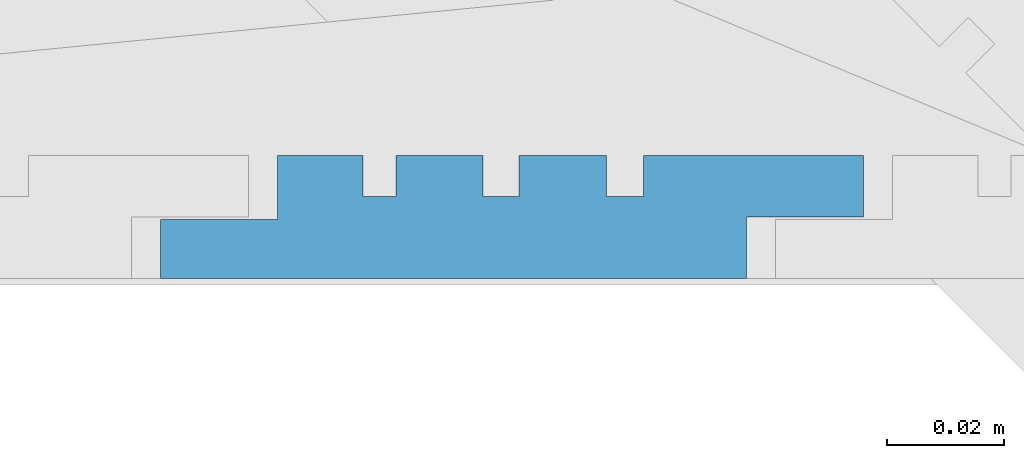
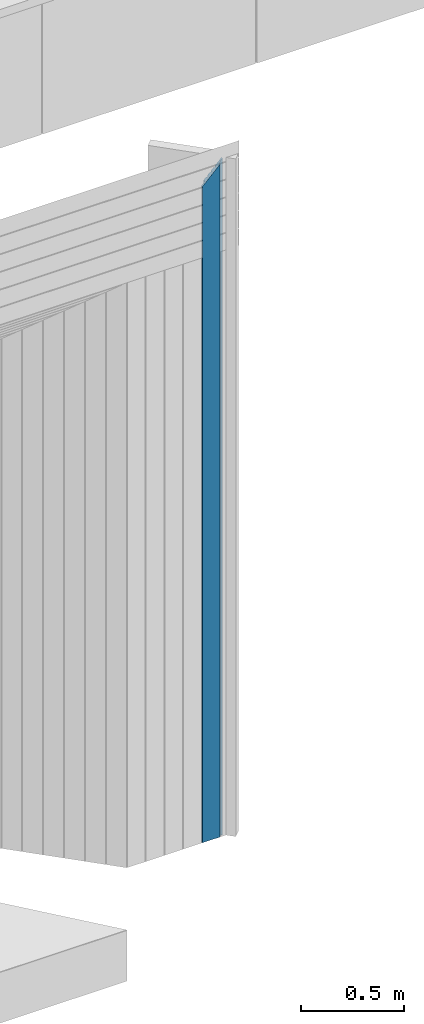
# One storey, part 107 of 418: 1 building element part, 1 element without a shape of its own.
"""IFC2X3 building model written with IfcOpenShell, lengths in millimetres."""

from ifc_helpers import new_model, entity, si_unit, converted_unit, derived_unit, money_unit, direction, frame, origin_with_axes, place, context, subcontext, project, spatial, polyline, outline, extrude, boolean, faceted_brep, material, type_object, element, aggregate, save


model = new_model("IFC2X3")

# Units and contexts
model_context = context("Model", 3, precision=0.01, world=origin_with_axes(), true_north=direction((0.0, 1.0)))
body_context = subcontext(model_context, "Body", "Model", "MODEL_VIEW")
ifc_project = project(units=[si_unit("LENGTHUNIT", "METRE", prefix="MILLI"), si_unit("AREAUNIT", "SQUARE_METRE"), si_unit("VOLUMEUNIT", "CUBIC_METRE"), converted_unit("PLANEANGLEUNIT", "DEGREE", entity("IfcPlaneAngleMeasure", 0.0174532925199), si_unit("PLANEANGLEUNIT", "RADIAN"), dimensions=[0, 0, 0, 0, 0, 0, 0]), si_unit("SOLIDANGLEUNIT", "STERADIAN"), money_unit("EUR"), converted_unit("TIMEUNIT", "Year", entity("IfcTimeMeasure", 31556926.0), si_unit("TIMEUNIT", "SECOND"), dimensions=[0, 0, 1, 0, 0, 0, 0]), si_unit("MASSUNIT", "GRAM", prefix="KILO"), si_unit("THERMODYNAMICTEMPERATUREUNIT", "DEGREE_CELSIUS"), si_unit("LUMINOUSINTENSITYUNIT", "LUMEN"), si_unit("ENERGYUNIT", "JOULE", prefix="MEGA"), derived_unit("THERMALCONDUCTANCEUNIT", [(si_unit("POWERUNIT", "WATT"), 1), (si_unit("LENGTHUNIT", "METRE"), -1), (si_unit("THERMODYNAMICTEMPERATUREUNIT", "KELVIN"), -1)]), derived_unit("SPECIFICHEATCAPACITYUNIT", [(si_unit("ENERGYUNIT", "JOULE"), 1), (si_unit("MASSUNIT", "GRAM", prefix="KILO"), -1), (si_unit("THERMODYNAMICTEMPERATUREUNIT", "KELVIN"), -1)]), derived_unit("MASSDENSITYUNIT", [(si_unit("MASSUNIT", "GRAM", prefix="KILO"), 1), (si_unit("VOLUMEUNIT", "CUBIC_METRE"), -1)])], contexts=[model_context])

# Site, building, storey
site_placement = place(None, origin_with_axes())
site = spatial("IfcSite", under=ifc_project, at=site_placement, Name="Paldiski mnt 245/1, Tallinn, Harjumaa", CompositionType="COMPLEX")
building_placement = place(site_placement, origin_with_axes())
building = spatial("IfcBuilding", under=site, at=building_placement, Name="RKAS Hoone üldnimetus (kasutust iseloomustav) -> IFC Project Manager -> SOLIBRI", CompositionType="ELEMENT")
storey_placement = place(building_placement, origin_with_axes())
storey = spatial("IfcBuildingStorey", under=building, at=storey_placement, Name="Esimene korrus", CompositionType="ELEMENT", Elevation=0.0)

# Proxy, building element part
building_element_proxy_type = type_object("IfcBuildingElementProxyType", Name="Laudis esiprofiil_01 21 x 622", PredefinedType="NOTDEFINED")
proxy_placement = place(storey_placement, frame((-37270.373884, -18705.5141429, 0.0), z_axis=(0.0, 0.0, 1.0), x_axis=(0.0, -1.0, 0.0)))
proxy = element("IfcBuildingElementProxy", 1, at=proxy_placement, inside=storey, type_object=building_element_proxy_type, Name="Varikatus")
ifc_material = material(Name="Laudis 5072 Honka 45 horisontaalne raastas")
building_element_part_placement = place(proxy_placement, origin_with_axes())
building_element_part = element("IfcBuildingElementPart", 2, at=building_element_part_placement, material=ifc_material, Name="Laudis 5072 Honka 45 horisontaalne raastas", context=body_context, shape_type="CSG", body=[
    boolean("DIFFERENCE", boolean("DIFFERENCE", boolean("DIFFERENCE", boolean("DIFFERENCE", boolean("DIFFERENCE", boolean("DIFFERENCE", extrude(outline(polyline([(3.20348192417e-08, -100.971430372), (-10.5000010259, -100.971430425), (-10.5000005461, -80.9714298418), (-20.9999998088, -80.9714301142), (-21.0000010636, -118.497524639), (-14.0000005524, -118.497525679), (-14.0000003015, -124.860022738), (-20.99999981, -124.860022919), (-20.9999998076, -139.79914009), (-14.0000002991, -139.799139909), (-14.0000007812, -145.926080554), (-21.0000002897, -145.926080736), (-21.0000013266, -160.754573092), (-14.0000008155, -160.754574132), (-14.0000015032, -166.395242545), (-21.0000010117, -166.395242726), (-21.0000007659, -180.971429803), (-10.000001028, -180.971430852), (-10.0000002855, -200.971430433), (-7.63172636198e-07, -200.971430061), (3.20348192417e-08, -100.971430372)])), origin_with_axes(), (0.0, 0.0, 1.0), 4086.15997799), faceted_brep([(-10.5000005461, -395.971429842, 3689.02857134), (-20.9999998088, -395.971430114, 3689.02857107), (-20.9999998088, -395.971430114, 4086.15997799), (-10.5000005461, -395.971429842, 4086.15997799), (-21.0000010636, -433.497524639, 3651.50247655), (-10.5000010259, -415.971430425, 3669.02857076), (3.20348192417e-08, -415.971430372, 3669.02857081), (-7.63172636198e-07, -515.971430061, 3569.02857112), (-10.0000002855, -515.971430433, 3569.02857075), (-10.000001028, -495.971430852, 3589.02857033), (-21.0000007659, -495.971429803, 3589.02857138), (-21.0000010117, -481.395242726, 3603.60475846), (-14.0000015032, -481.395242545, 3603.60475864), (-14.0000008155, -475.754574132, 3609.24542705), (-21.0000013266, -475.754573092, 3609.24542809), (-21.0000002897, -460.926080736, 3624.07392045), (-14.0000007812, -460.926080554, 3624.07392063), (-14.0000002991, -454.799139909, 3630.20086128), (-20.9999998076, -454.79914009, 3630.20086109), (-20.99999981, -439.860022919, 3645.13997827), (-14.0000003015, -439.860022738, 3645.13997845), (-14.0000005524, -433.497525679, 3651.50247551), (-21.0000010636, -433.497524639, 4086.15997799), (-7.63172636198e-07, -515.971430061, 4086.15997799), (3.20348192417e-08, -415.971430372, 4086.15997799), (-10.5000010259, -415.971430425, 4086.15997799), (-14.0000005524, -433.497525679, 4086.15997799), (-14.0000003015, -439.860022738, 4086.15997799), (-20.99999981, -439.860022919, 4086.15997799), (-20.9999998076, -454.79914009, 4086.15997799), (-14.0000002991, -454.799139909, 4086.15997799), (-14.0000007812, -460.926080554, 4086.15997799), (-21.0000002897, -460.926080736, 4086.15997799), (-21.0000013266, -475.754573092, 4086.15997799), (-14.0000008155, -475.754574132, 4086.15997799), (-14.0000015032, -481.395242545, 4086.15997799), (-21.0000010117, -481.395242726, 4086.15997799), (-21.0000007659, -495.971429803, 4086.15997799), (-10.000001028, -495.971430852, 4086.15997799), (-10.0000002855, -515.971430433, 4086.15997799)], [[[0, 1, 2, 3]], [[4, 1, 0, 5, 6, 7, 8, 9, 10, 11, 12, 13, 14, 15, 16, 17, 18, 19, 20, 21]], [[1, 4, 22, 2]], [[23, 24, 25, 3, 2, 22, 26, 27, 28, 29, 30, 31, 32, 33, 34, 35, 36, 37, 38, 39]], [[5, 0, 3, 25]], [[6, 5, 25, 24]], [[7, 6, 24, 23]], [[8, 7, 23, 39]], [[9, 8, 39, 38]], [[10, 9, 38, 37]], [[11, 10, 37, 36]], [[12, 11, 36, 35]], [[13, 12, 35, 34]], [[14, 13, 34, 33]], [[15, 14, 33, 32]], [[16, 15, 32, 31]], [[17, 16, 31, 30]], [[18, 17, 30, 29]], [[19, 18, 29, 28]], [[20, 19, 28, 27]], [[21, 20, 27, 26]], [[4, 21, 26, 22]]])), faceted_brep([(-10.5000005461, -500.971429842, 3584.02857134), (-20.9999998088, -500.971430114, 3584.02857107), (-20.9999998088, -500.971430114, 4086.15997799), (-10.5000005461, -500.971429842, 4086.15997799), (-21.0000010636, -538.497524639, 3546.50247655), (-10.5000010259, -520.971430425, 3564.02857076), (3.20348192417e-08, -520.971430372, 3564.02857081), (-7.63172636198e-07, -620.971430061, 3464.02857112), (-10.0000002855, -620.971430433, 3464.02857075), (-10.000001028, -600.971430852, 3484.02857033), (-21.0000007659, -600.971429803, 3484.02857138), (-21.0000010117, -586.395242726, 3498.60475846), (-14.0000015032, -586.395242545, 3498.60475864), (-14.0000008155, -580.754574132, 3504.24542705), (-21.0000013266, -580.754573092, 3504.24542809), (-21.0000002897, -565.926080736, 3519.07392045), (-14.0000007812, -565.926080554, 3519.07392063), (-14.0000002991, -559.799139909, 3525.20086128), (-20.9999998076, -559.79914009, 3525.20086109), (-20.99999981, -544.860022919, 3540.13997827), (-14.0000003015, -544.860022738, 3540.13997845), (-14.0000005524, -538.497525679, 3546.50247551), (-21.0000010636, -538.497524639, 4086.15997799), (-7.63172636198e-07, -620.971430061, 4086.15997799), (3.20348192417e-08, -520.971430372, 4086.15997799), (-10.5000010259, -520.971430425, 4086.15997799), (-14.0000005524, -538.497525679, 4086.15997799), (-14.0000003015, -544.860022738, 4086.15997799), (-20.99999981, -544.860022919, 4086.15997799), (-20.9999998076, -559.79914009, 4086.15997799), (-14.0000002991, -559.799139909, 4086.15997799), (-14.0000007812, -565.926080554, 4086.15997799), (-21.0000002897, -565.926080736, 4086.15997799), (-21.0000013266, -580.754573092, 4086.15997799), (-14.0000008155, -580.754574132, 4086.15997799), (-14.0000015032, -586.395242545, 4086.15997799), (-21.0000010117, -586.395242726, 4086.15997799), (-21.0000007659, -600.971429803, 4086.15997799), (-10.000001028, -600.971430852, 4086.15997799), (-10.0000002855, -620.971430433, 4086.15997799)], [[[0, 1, 2, 3]], [[4, 1, 0, 5, 6, 7, 8, 9, 10, 11, 12, 13, 14, 15, 16, 17, 18, 19, 20, 21]], [[1, 4, 22, 2]], [[23, 24, 25, 3, 2, 22, 26, 27, 28, 29, 30, 31, 32, 33, 34, 35, 36, 37, 38, 39]], [[5, 0, 3, 25]], [[6, 5, 25, 24]], [[7, 6, 24, 23]], [[8, 7, 23, 39]], [[9, 8, 39, 38]], [[10, 9, 38, 37]], [[11, 10, 37, 36]], [[12, 11, 36, 35]], [[13, 12, 35, 34]], [[14, 13, 34, 33]], [[15, 14, 33, 32]], [[16, 15, 32, 31]], [[17, 16, 31, 30]], [[18, 17, 30, 29]], [[19, 18, 29, 28]], [[20, 19, 28, 27]], [[21, 20, 27, 26]], [[4, 21, 26, 22]]])), faceted_brep([(-10.5000005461, -185.971429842, 3899.02857134), (-20.9999998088, -185.971430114, 3899.02857107), (-20.9999998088, -185.971430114, 4086.15997799), (-10.5000005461, -185.971429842, 4086.15997799), (-21.0000010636, -223.497524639, 3861.50247655), (-10.5000010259, -205.971430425, 3879.02857076), (3.20348192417e-08, -205.971430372, 3879.02857081), (-7.63172636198e-07, -305.971430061, 3779.02857112), (-10.0000002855, -305.971430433, 3779.02857075), (-10.000001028, -285.971430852, 3799.02857033), (-21.0000007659, -285.971429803, 3799.02857138), (-21.0000010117, -271.395242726, 3813.60475846), (-14.0000015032, -271.395242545, 3813.60475864), (-14.0000008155, -265.754574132, 3819.24542705), (-21.0000013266, -265.754573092, 3819.24542809), (-21.0000002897, -250.926080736, 3834.07392045), (-14.0000007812, -250.926080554, 3834.07392063), (-14.0000002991, -244.799139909, 3840.20086128), (-20.9999998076, -244.79914009, 3840.20086109), (-20.99999981, -229.860022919, 3855.13997827), (-14.0000003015, -229.860022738, 3855.13997845), (-14.0000005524, -223.497525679, 3861.50247551), (-21.0000010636, -223.497524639, 4086.15997799), (-7.63172636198e-07, -305.971430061, 4086.15997799), (3.20348192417e-08, -205.971430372, 4086.15997799), (-10.5000010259, -205.971430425, 4086.15997799), (-14.0000005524, -223.497525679, 4086.15997799), (-14.0000003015, -229.860022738, 4086.15997799), (-20.99999981, -229.860022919, 4086.15997799), (-20.9999998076, -244.79914009, 4086.15997799), (-14.0000002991, -244.799139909, 4086.15997799), (-14.0000007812, -250.926080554, 4086.15997799), (-21.0000002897, -250.926080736, 4086.15997799), (-21.0000013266, -265.754573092, 4086.15997799), (-14.0000008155, -265.754574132, 4086.15997799), (-14.0000015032, -271.395242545, 4086.15997799), (-21.0000010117, -271.395242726, 4086.15997799), (-21.0000007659, -285.971429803, 4086.15997799), (-10.000001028, -285.971430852, 4086.15997799), (-10.0000002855, -305.971430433, 4086.15997799)], [[[0, 1, 2, 3]], [[4, 1, 0, 5, 6, 7, 8, 9, 10, 11, 12, 13, 14, 15, 16, 17, 18, 19, 20, 21]], [[1, 4, 22, 2]], [[23, 24, 25, 3, 2, 22, 26, 27, 28, 29, 30, 31, 32, 33, 34, 35, 36, 37, 38, 39]], [[5, 0, 3, 25]], [[6, 5, 25, 24]], [[7, 6, 24, 23]], [[8, 7, 23, 39]], [[9, 8, 39, 38]], [[10, 9, 38, 37]], [[11, 10, 37, 36]], [[12, 11, 36, 35]], [[13, 12, 35, 34]], [[14, 13, 34, 33]], [[15, 14, 33, 32]], [[16, 15, 32, 31]], [[17, 16, 31, 30]], [[18, 17, 30, 29]], [[19, 18, 29, 28]], [[20, 19, 28, 27]], [[21, 20, 27, 26]], [[4, 21, 26, 22]]])), faceted_brep([(-10.5000005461, -290.971429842, 3794.02857134), (-20.9999998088, -290.971430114, 3794.02857107), (-20.9999998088, -290.971430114, 4086.15997799), (-10.5000005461, -290.971429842, 4086.15997799), (-21.0000010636, -328.497524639, 3756.50247655), (-10.5000010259, -310.971430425, 3774.02857076), (3.20348192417e-08, -310.971430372, 3774.02857081), (-7.63172636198e-07, -410.971430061, 3674.02857112), (-10.0000002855, -410.971430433, 3674.02857075), (-10.000001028, -390.971430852, 3694.02857033), (-21.0000007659, -390.971429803, 3694.02857138), (-21.0000010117, -376.395242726, 3708.60475846), (-14.0000015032, -376.395242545, 3708.60475864), (-14.0000008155, -370.754574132, 3714.24542705), (-21.0000013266, -370.754573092, 3714.24542809), (-21.0000002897, -355.926080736, 3729.07392045), (-14.0000007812, -355.926080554, 3729.07392063), (-14.0000002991, -349.799139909, 3735.20086128), (-20.9999998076, -349.79914009, 3735.20086109), (-20.99999981, -334.860022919, 3750.13997827), (-14.0000003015, -334.860022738, 3750.13997845), (-14.0000005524, -328.497525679, 3756.50247551), (-21.0000010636, -328.497524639, 4086.15997799), (-7.63172636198e-07, -410.971430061, 4086.15997799), (3.20348192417e-08, -310.971430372, 4086.15997799), (-10.5000010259, -310.971430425, 4086.15997799), (-14.0000005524, -328.497525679, 4086.15997799), (-14.0000003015, -334.860022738, 4086.15997799), (-20.99999981, -334.860022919, 4086.15997799), (-20.9999998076, -349.79914009, 4086.15997799), (-14.0000002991, -349.799139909, 4086.15997799), (-14.0000007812, -355.926080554, 4086.15997799), (-21.0000002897, -355.926080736, 4086.15997799), (-21.0000013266, -370.754573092, 4086.15997799), (-14.0000008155, -370.754574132, 4086.15997799), (-14.0000015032, -376.395242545, 4086.15997799), (-21.0000010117, -376.395242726, 4086.15997799), (-21.0000007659, -390.971429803, 4086.15997799), (-10.000001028, -390.971430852, 4086.15997799), (-10.0000002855, -410.971430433, 4086.15997799)], [[[0, 1, 2, 3]], [[4, 1, 0, 5, 6, 7, 8, 9, 10, 11, 12, 13, 14, 15, 16, 17, 18, 19, 20, 21]], [[1, 4, 22, 2]], [[23, 24, 25, 3, 2, 22, 26, 27, 28, 29, 30, 31, 32, 33, 34, 35, 36, 37, 38, 39]], [[5, 0, 3, 25]], [[6, 5, 25, 24]], [[7, 6, 24, 23]], [[8, 7, 23, 39]], [[9, 8, 39, 38]], [[10, 9, 38, 37]], [[11, 10, 37, 36]], [[12, 11, 36, 35]], [[13, 12, 35, 34]], [[14, 13, 34, 33]], [[15, 14, 33, 32]], [[16, 15, 32, 31]], [[17, 16, 31, 30]], [[18, 17, 30, 29]], [[19, 18, 29, 28]], [[20, 19, 28, 27]], [[21, 20, 27, 26]], [[4, 21, 26, 22]]])), faceted_brep([(-1.4387921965e-06, -95.9714304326, 3989.02857075), (8.28137558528e-09, 1.13997680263, 4086.13997799), (8.28137558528e-09, 1.13997680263, 4086.15997799), (-1.4387921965e-06, -95.9714304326, 4086.15997799), (-14.0000008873, -12.860024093, 4072.13997709), (-10.0000000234, -95.9714304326, 3989.02857075), (-10.0000014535, -75.9714304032, 4009.02857078), (-21.0000013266, -75.9714304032, 4009.02857078), (-21.0000013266, -61.3952431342, 4023.60475805), (-14.0000008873, -61.3952431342, 4023.60475805), (-14.0000008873, -55.7545748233, 4029.24542636), (-21.0000013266, -55.7545733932, 4029.24542779), (-20.9999998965, -40.9260801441, 4044.07392104), (-14.0000008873, -40.9260801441, 4044.07392104), (-14.0000008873, -34.7991393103, 4050.20086187), (-20.9999998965, -34.7991407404, 4050.20086044), (-20.9999998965, -19.8600231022, 4065.13997808), (-14.0000008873, -19.8600231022, 4065.13997808), (-14.0000008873, -12.860024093, 4086.15997799), (-20.9999998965, -40.9260801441, 4086.15997799), (-21.0000013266, -55.7545733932, 4086.15997799), (-14.0000008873, -55.7545748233, 4086.15997799), (-14.0000008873, -61.3952431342, 4086.15997799), (-21.0000013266, -61.3952431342, 4086.15997799), (-21.0000013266, -75.9714304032, 4086.15997799), (-10.0000014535, -75.9714304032, 4086.15997799), (-10.0000000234, -95.9714304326, 4086.15997799), (-14.0000008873, -19.8600231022, 4086.15997799), (-20.9999998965, -19.8600231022, 4086.15997799), (-20.9999998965, -34.7991407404, 4086.15997799), (-14.0000008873, -34.7991393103, 4086.15997799), (-14.0000008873, -40.9260801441, 4086.15997799)], [[[0, 1, 2, 3]], [[4, 1, 0, 5, 6, 7, 8, 9, 10, 11, 12, 13, 14, 15, 16, 17]], [[1, 4, 18, 2]], [[19, 20, 21, 22, 23, 24, 25, 26, 3, 2, 18, 27, 28, 29, 30, 31]], [[5, 0, 3, 26]], [[6, 5, 26, 25]], [[7, 6, 25, 24]], [[8, 7, 24, 23]], [[9, 8, 23, 22]], [[10, 9, 22, 21]], [[11, 10, 21, 20]], [[12, 11, 20, 19]], [[13, 12, 19, 31]], [[14, 13, 31, 30]], [[15, 14, 30, 29]], [[16, 15, 29, 28]], [[17, 16, 28, 27]], [[4, 17, 27, 18]]])), faceted_brep([(-10.5000005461, -80.9714298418, 4004.02857134), (-20.9999998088, -80.9714301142, 4004.02857107), (-20.9999998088, -80.9714301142, 4086.15997799), (-10.5000005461, -80.9714298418, 4086.15997799), (-21.0000010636, -118.497524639, 3966.50247655), (-10.5000010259, -100.971430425, 3984.02857076), (3.20348192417e-08, -100.971430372, 3984.02857081), (-7.63172636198e-07, -200.971430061, 3884.02857112), (-10.0000002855, -200.971430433, 3884.02857075), (-10.000001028, -180.971430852, 3904.02857033), (-21.0000007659, -180.971429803, 3904.02857138), (-21.0000010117, -166.395242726, 3918.60475846), (-14.0000015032, -166.395242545, 3918.60475864), (-14.0000008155, -160.754574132, 3924.24542705), (-21.0000013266, -160.754573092, 3924.24542809), (-21.0000002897, -145.926080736, 3939.07392045), (-14.0000007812, -145.926080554, 3939.07392063), (-14.0000002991, -139.799139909, 3945.20086128), (-20.9999998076, -139.79914009, 3945.20086109), (-20.99999981, -124.860022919, 3960.13997827), (-14.0000003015, -124.860022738, 3960.13997845), (-14.0000005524, -118.497525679, 3966.50247551), (-21.0000010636, -118.497524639, 4086.15997799), (-7.63172636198e-07, -200.971430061, 4086.15997799), (3.20348192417e-08, -100.971430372, 4086.15997799), (-10.5000010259, -100.971430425, 4086.15997799), (-14.0000005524, -118.497525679, 4086.15997799), (-14.0000003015, -124.860022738, 4086.15997799), (-20.99999981, -124.860022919, 4086.15997799), (-20.9999998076, -139.79914009, 4086.15997799), (-14.0000002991, -139.799139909, 4086.15997799), (-14.0000007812, -145.926080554, 4086.15997799), (-21.0000002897, -145.926080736, 4086.15997799), (-21.0000013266, -160.754573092, 4086.15997799), (-14.0000008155, -160.754574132, 4086.15997799), (-14.0000015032, -166.395242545, 4086.15997799), (-21.0000010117, -166.395242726, 4086.15997799), (-21.0000007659, -180.971429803, 4086.15997799), (-10.000001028, -180.971430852, 4086.15997799), (-10.0000002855, -200.971430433, 4086.15997799)], [[[0, 1, 2, 3]], [[4, 1, 0, 5, 6, 7, 8, 9, 10, 11, 12, 13, 14, 15, 16, 17, 18, 19, 20, 21]], [[1, 4, 22, 2]], [[23, 24, 25, 3, 2, 22, 26, 27, 28, 29, 30, 31, 32, 33, 34, 35, 36, 37, 38, 39]], [[5, 0, 3, 25]], [[6, 5, 25, 24]], [[7, 6, 24, 23]], [[8, 7, 23, 39]], [[9, 8, 39, 38]], [[10, 9, 38, 37]], [[11, 10, 37, 36]], [[12, 11, 36, 35]], [[13, 12, 35, 34]], [[14, 13, 34, 33]], [[15, 14, 33, 32]], [[16, 15, 32, 31]], [[17, 16, 31, 30]], [[18, 17, 30, 29]], [[19, 18, 29, 28]], [[20, 19, 28, 27]], [[21, 20, 27, 26]], [[4, 21, 26, 22]]])),
])
aggregate(proxy, [building_element_part])

save(model, "model.ifc")
